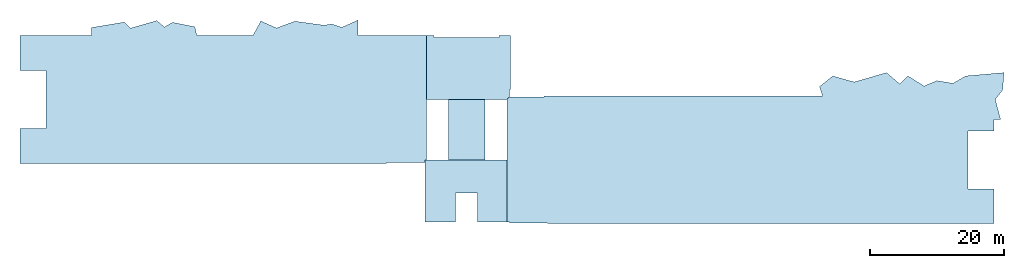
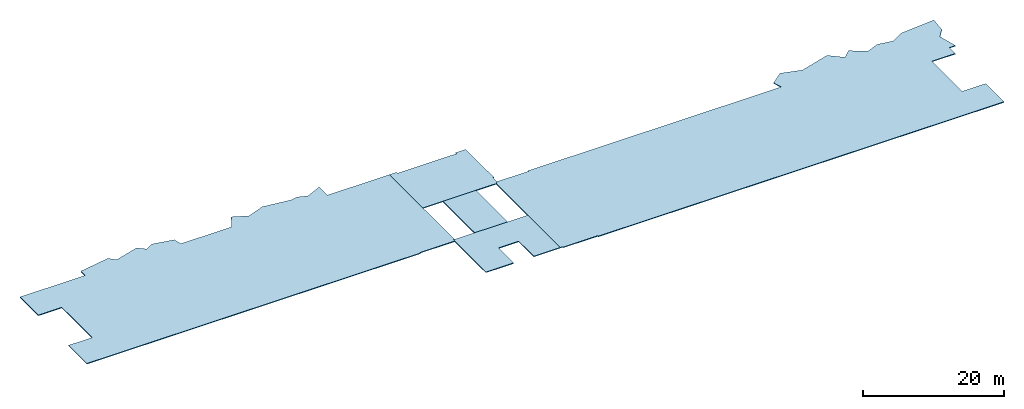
# One storey: 5 slabs.
"""IFC2X3 building model written with IfcOpenShell, lengths in millimetres."""

from ifc_helpers import new_model, si_unit, origin, place, context, project, spatial, faceted_brep, material, element, save


model = new_model("IFC2X3")

# Units and contexts
context_of_model = context(None, 3, precision=1e-05, world=origin())
ifc_project = project(units=[si_unit("LENGTHUNIT", "METRE", prefix="MILLI")], contexts=[context_of_model])

# Building, storey
building = spatial("IfcBuilding", under=ifc_project, Name="Building", CompositionType="ELEMENT")
storey = spatial("IfcBuildingStorey", under=building, Name="FL3-PLT", CompositionType="ELEMENT")

# Slabs
ifc_material_1 = material(Name="C4000")
slab_1_placement = place(None, origin())
element("IfcSlab", 1, at=slab_1_placement, inside=storey, material=ifc_material_1, Name="Floor11", PredefinedType="FLOOR", context=context_of_model, shape_type="Brep", body=[
    faceted_brep([(3300.0, 18000.0, 8796.8), (8700.0, 18000.0, 8796.8), (8700.0, 18000.0, 9000.0), (3300.0, 18000.0, 9000.0), (8700.0, 27000.0, 8796.8), (8700.0, 27000.0, 9000.0), (3300.0, 27000.0, 8796.8), (3300.0, 27000.0, 9000.0)], [[[0, 1, 2, 3]], [[1, 4, 5, 2]], [[4, 6, 7, 5]], [[6, 0, 3, 7]], [[3, 2, 5, 7]], [[0, 6, 4, 1]]]),
])
ifc_material_2 = material(Name="C3000")
slab_2_placement = place(None, origin())
element("IfcSlab", 2, at=slab_2_placement, inside=storey, material=ifc_material_2, Name="Floor40", PredefinedType="FLOOR", context=context_of_model, shape_type="Brep", body=[
    faceted_brep([(12000.0, 8775.0, 8873.0), (12000.0, 18000.0, 8873.0), (12000.0, 18000.0, 9000.0), (12000.0, 8775.0, 9000.0), (-203.2, 18000.0, 8873.0), (-203.2, 18000.0, 9000.0), (-203.2, 8775.0, 8873.0), (-203.2, 8775.0, 9000.0), (4351.0, 8775.0, 8873.0), (4351.0, 8775.0, 9000.0), (4351.0, 13060.2, 8873.0), (4351.0, 13060.2, 9000.0), (7649.0, 13060.2, 8873.0), (7649.0, 13060.2, 9000.0), (7649.0, 8775.0, 8873.0), (7649.0, 8775.0, 9000.0)], [[[0, 1, 2, 3]], [[1, 4, 5, 2]], [[4, 6, 7, 5]], [[6, 8, 9, 7]], [[8, 10, 11, 9]], [[10, 12, 13, 11]], [[12, 14, 15, 13]], [[14, 0, 3, 15]], [[3, 2, 5, 7, 9, 11, 13, 15]], [[0, 14, 12, 10, 8, 6, 4, 1]]]),
])
ifc_material_3 = material(Name="C3000")
slab_3_placement = place(None, origin())
element("IfcSlab", 3, at=slab_3_placement, inside=storey, material=ifc_material_3, Name="Floor58", PredefinedType="FLOOR", context=context_of_model, shape_type="Brep", body=[
    faceted_brep([(12365.0, 27365.0, 8873.0), (12000.0, 27000.0, 8873.0), (12000.0, 27000.0, 9000.0), (12365.0, 27365.0, 9000.0), (12000.0, 18000.0, 8873.0), (12000.0, 18000.0, 9000.0), (12000.0, 8775.0, 8873.0), (12000.0, 8775.0, 9000.0), (12365.0, 8775.0, 8873.0), (12365.0, 8775.0, 9000.0), (12365.0, 8635.0, 8873.0), (12365.0, 8635.0, 9000.0), (18038.0, 8635.0, 8873.0), (18038.0, 8635.0, 9000.0), (18038.0, 8500.0, 8873.0), (18038.0, 8500.0, 9000.0), (84500.0, 8500.0, 8873.0), (84500.0, 8500.0, 9000.0), (84500.0, 13700.0, 8873.0), (84500.0, 13700.0, 9000.0), (80650.0, 13700.0, 8873.0), (80650.0, 13700.0, 9000.0), (80650.0, 22300.0, 8873.0), (80650.0, 22300.0, 9000.0), (84500.0, 22300.0, 8873.0), (84500.0, 22300.0, 9000.0), (84500.0, 24000.0, 8873.0), (84500.0, 24000.0, 9000.0), (85500.0, 24000.0, 8873.0), (85500.0, 24000.0, 9000.0), (84700.0, 27000.0, 8873.0), (84700.0, 27000.0, 9000.0), (85800.0, 28400.0, 8873.0), (85800.0, 28400.0, 9000.0), (86000.0, 31000.0, 8873.0), (86000.0, 31000.0, 9000.0), (80300.0, 30500.0, 8873.0), (80300.0, 30500.0, 9000.0), (78400.0, 29400.0, 8873.0), (78400.0, 29400.0, 9000.0), (76000.0, 29800.0, 8873.0), (76000.0, 29800.0, 9000.0), (74100.0, 29000.0, 8873.0), (74100.0, 29000.0, 9000.0), (71700.0, 30500.0, 8873.0), (71700.0, 30500.0, 9000.0), (70500.0, 29300.0, 8873.0), (70500.0, 29300.0, 9000.0), (68500.0, 31000.0, 8873.0), (68500.0, 31000.0, 9000.0), (63700.0, 29600.0, 8873.0), (63700.0, 29600.0, 9000.0), (60500.0, 30500.0, 8873.0), (60500.0, 30500.0, 9000.0), (58533.3, 28900.0, 8873.0), (58533.3, 28900.0, 9000.0), (59000.0, 27500.0, 8873.0), (59000.0, 27500.0, 9000.0), (17500.0, 27500.0, 8873.0), (17500.0, 27500.0, 9000.0), (17500.0, 27365.0, 8873.0), (17500.0, 27365.0, 9000.0)], [[[0, 1, 2, 3]], [[1, 4, 5, 2]], [[4, 6, 7, 5]], [[6, 8, 9, 7]], [[8, 10, 11, 9]], [[10, 12, 13, 11]], [[12, 14, 15, 13]], [[14, 16, 17, 15]], [[16, 18, 19, 17]], [[18, 20, 21, 19]], [[20, 22, 23, 21]], [[22, 24, 25, 23]], [[24, 26, 27, 25]], [[26, 28, 29, 27]], [[28, 30, 31, 29]], [[30, 32, 33, 31]], [[32, 34, 35, 33]], [[34, 36, 37, 35]], [[36, 38, 39, 37]], [[38, 40, 41, 39]], [[40, 42, 43, 41]], [[42, 44, 45, 43]], [[44, 46, 47, 45]], [[46, 48, 49, 47]], [[48, 50, 51, 49]], [[50, 52, 53, 51]], [[52, 54, 55, 53]], [[54, 56, 57, 55]], [[56, 58, 59, 57]], [[58, 60, 61, 59]], [[60, 0, 3, 61]], [[3, 2, 5, 7, 9, 11, 13, 15, 17, 19, 21, 23, 25, 27, 29, 31, 33, 35, 37, 39, 41, 43, 45, 47, 49, 51, 53, 55, 57, 59, 61]], [[0, 60, 58, 56, 54, 52, 50, 48, 46, 44, 42, 40, 38, 36, 34, 32, 30, 28, 26, 24, 22, 20, 18, 16, 14, 12, 10, 8, 6, 4, 1]]]),
])
ifc_material_4 = material(Name="C3000")
slab_4_placement = place(None, origin())
element("IfcSlab", 4, at=slab_4_placement, inside=storey, material=ifc_material_4, Name="Floor60", PredefinedType="FLOOR", context=context_of_model, shape_type="Brep", body=[
    faceted_brep([(0.0, 27000.0, 8873.0), (0.0, 36500.0, 8873.0), (0.0, 36500.0, 9000.0), (0.0, 27000.0, 9000.0), (-3150.0, 36500.0, 8873.0), (-3150.0, 36500.0, 9000.0), (-10150.0, 36500.0, 8873.0), (-10150.0, 36500.0, 9000.0), (-10150.0, 38832.6, 8873.0), (-10150.0, 38832.6, 9000.0), (-12580.2, 37735.3, 8873.0), (-12580.2, 37735.3, 9000.0), (-14111.0, 38245.5, 8873.0), (-14111.0, 38245.5, 9000.0), (-15196.6, 38048.2, 8873.0), (-15196.6, 38048.2, 9000.0), (-19583.1, 38646.3, 8873.0), (-19583.1, 38646.3, 9000.0), (-22305.1, 37638.1, 8873.0), (-22305.1, 37638.1, 9000.0), (-24654.5, 38682.3, 8873.0), (-24654.5, 38682.3, 9000.0), (-25829.6, 36500.0, 8873.0), (-25829.6, 36500.0, 9000.0), (-34154.4, 36500.0, 8873.0), (-34154.4, 36500.0, 9000.0), (-34474.2, 37814.8, 8873.0), (-34474.2, 37814.8, 9000.0), (-37804.3, 38480.9, 8873.0), (-37804.3, 38480.9, 9000.0), (-39002.0, 37782.1, 8873.0), (-39002.0, 37782.1, 9000.0), (-40139.3, 38744.4, 8873.0), (-40139.3, 38744.4, 9000.0), (-44030.2, 37618.1, 8873.0), (-44030.2, 37618.1, 9000.0), (-44939.4, 38527.2, 8873.0), (-44939.4, 38527.2, 9000.0), (-49850.0, 37708.8, 8873.0), (-49850.0, 37708.8, 9000.0), (-49850.0, 36500.0, 8873.0), (-49850.0, 36500.0, 9000.0), (-60500.0, 36500.0, 8873.0), (-60500.0, 36500.0, 9000.0), (-60500.0, 31300.0, 8873.0), (-60500.0, 31300.0, 9000.0), (-56650.0, 31300.0, 8873.0), (-56650.0, 31300.0, 9000.0), (-56650.0, 22700.0, 8873.0), (-56650.0, 22700.0, 9000.0), (-60500.0, 22700.0, 8873.0), (-60500.0, 22700.0, 9000.0), (-60500.0, 17500.0, 8873.0), (-60500.0, 17500.0, 9000.0), (-5898.0, 17500.0, 8873.0), (-5898.0, 17500.0, 9000.0), (-5898.0, 17635.0, 8873.0), (-5898.0, 17635.0, 9000.0), (0.0, 17635.0, 8873.0), (0.0, 17635.0, 9000.0)], [[[0, 1, 2, 3]], [[1, 4, 5, 2]], [[4, 6, 7, 5]], [[6, 8, 9, 7]], [[8, 10, 11, 9]], [[10, 12, 13, 11]], [[12, 14, 15, 13]], [[14, 16, 17, 15]], [[16, 18, 19, 17]], [[18, 20, 21, 19]], [[20, 22, 23, 21]], [[22, 24, 25, 23]], [[24, 26, 27, 25]], [[26, 28, 29, 27]], [[28, 30, 31, 29]], [[30, 32, 33, 31]], [[32, 34, 35, 33]], [[34, 36, 37, 35]], [[36, 38, 39, 37]], [[38, 40, 41, 39]], [[40, 42, 43, 41]], [[42, 44, 45, 43]], [[44, 46, 47, 45]], [[46, 48, 49, 47]], [[48, 50, 51, 49]], [[50, 52, 53, 51]], [[52, 54, 55, 53]], [[54, 56, 57, 55]], [[56, 58, 59, 57]], [[58, 0, 3, 59]], [[3, 2, 5, 7, 9, 11, 13, 15, 17, 19, 21, 23, 25, 27, 29, 31, 33, 35, 37, 39, 41, 43, 45, 47, 49, 51, 53, 55, 57, 59]], [[0, 58, 56, 54, 52, 50, 48, 46, 44, 42, 40, 38, 36, 34, 32, 30, 28, 26, 24, 22, 20, 18, 16, 14, 12, 10, 8, 6, 4, 1]]]),
])
ifc_material_5 = material(Name="C3000")
slab_5_placement = place(None, origin())
element("IfcSlab", 5, at=slab_5_placement, inside=storey, material=ifc_material_5, Name="Floor61", PredefinedType="FLOOR", context=context_of_model, shape_type="Brep", body=[
    faceted_brep([(0.0, 27000.0, 8873.0), (12000.0, 27000.0, 8873.0), (12000.0, 27000.0, 9000.0), (0.0, 27000.0, 9000.0), (12365.0, 27365.0, 8873.0), (12365.0, 27365.0, 9000.0), (12365.3, 28500.0, 8873.0), (12365.3, 28500.0, 9000.0), (12500.0, 28500.0, 8873.0), (12500.0, 28500.0, 9000.0), (12500.0, 36500.0, 8873.0), (12500.0, 36500.0, 9000.0), (10827.0, 36500.0, 8873.0), (10827.0, 36500.0, 9000.0), (10827.0, 36225.0, 8873.0), (10827.0, 36225.0, 9000.0), (1173.0, 36225.0, 8873.0), (1173.0, 36225.0, 9000.0), (1173.0, 36500.0, 8873.0), (1173.0, 36500.0, 9000.0), (0.0, 36500.0, 8873.0), (0.0, 36500.0, 9000.0)], [[[0, 1, 2, 3]], [[1, 4, 5, 2]], [[4, 6, 7, 5]], [[6, 8, 9, 7]], [[8, 10, 11, 9]], [[10, 12, 13, 11]], [[12, 14, 15, 13]], [[14, 16, 17, 15]], [[16, 18, 19, 17]], [[18, 20, 21, 19]], [[20, 0, 3, 21]], [[3, 2, 5, 7, 9, 11, 13, 15, 17, 19, 21]], [[0, 20, 18, 16, 14, 12, 10, 8, 6, 4, 1]]]),
])

save(model, "model.ifc")
